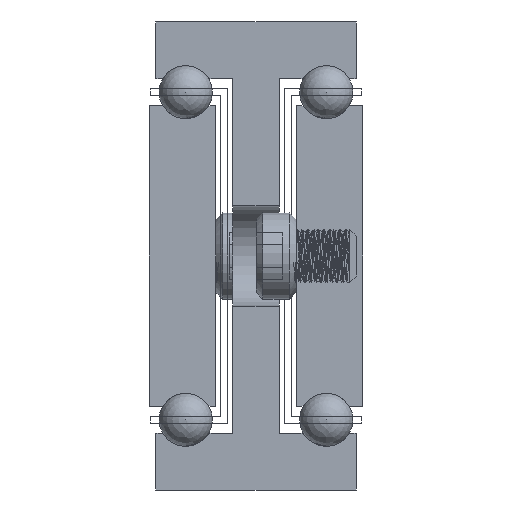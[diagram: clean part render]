
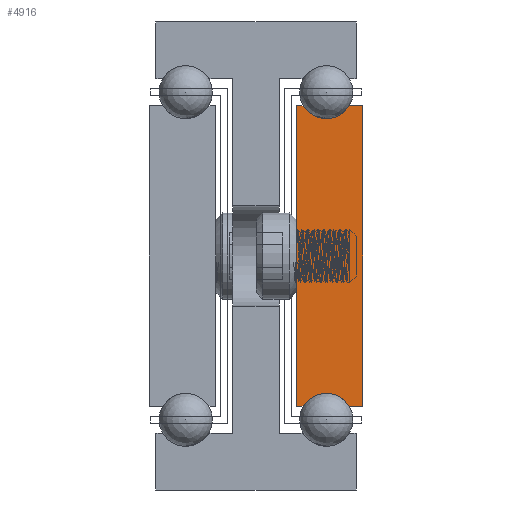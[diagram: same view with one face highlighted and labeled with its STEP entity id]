
A CAD part, front view. The second image highlights one B-rep face of the part: STEP entity #4916.
In plain terms, the highlighted planar face has unit normal (0, -1, 0).
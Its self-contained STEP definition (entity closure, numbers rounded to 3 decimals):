
#754=CIRCLE('',#5311,4.);
#756=CIRCLE('',#5317,4.);
#1226=FACE_OUTER_BOUND('',#1508,.T.);
#1508=EDGE_LOOP('',(#3980,#3981,#3982,#3983,#3984,#3985,#3986,#3987));
#2048=LINE('',#7664,#2260);
#2052=LINE('',#7672,#2264);
#2056=LINE('',#7684,#2268);
#2059=LINE('',#7690,#2271);
#2062=LINE('',#7696,#2274);
#2066=LINE('',#7707,#2278);
#2260=VECTOR('',#6124,1.);
#2264=VECTOR('',#6130,1.);
#2268=VECTOR('',#6142,1.);
#2271=VECTOR('',#6147,1.);
#2274=VECTOR('',#6152,1.);
#2278=VECTOR('',#6164,1.);
#2480=VERTEX_POINT('',#7662);
#2481=VERTEX_POINT('',#7663);
#2484=VERTEX_POINT('',#7671);
#2486=VERTEX_POINT('',#7677);
#2488=VERTEX_POINT('',#7683);
#2490=VERTEX_POINT('',#7689);
#2492=VERTEX_POINT('',#7695);
#2494=VERTEX_POINT('',#7701);
#3186=EDGE_CURVE('',#2480,#2481,#2048,.T.);
#3190=EDGE_CURVE('',#2481,#2484,#2052,.T.);
#3193=EDGE_CURVE('',#2484,#2486,#754,.T.);
#3196=EDGE_CURVE('',#2486,#2488,#2056,.T.);
#3199=EDGE_CURVE('',#2488,#2490,#2059,.T.);
#3202=EDGE_CURVE('',#2490,#2492,#2062,.T.);
#3205=EDGE_CURVE('',#2492,#2494,#756,.T.);
#3208=EDGE_CURVE('',#2494,#2480,#2066,.T.);
#3980=ORIENTED_EDGE('',*,*,#3208,.T.);
#3981=ORIENTED_EDGE('',*,*,#3186,.T.);
#3982=ORIENTED_EDGE('',*,*,#3190,.T.);
#3983=ORIENTED_EDGE('',*,*,#3193,.T.);
#3984=ORIENTED_EDGE('',*,*,#3196,.T.);
#3985=ORIENTED_EDGE('',*,*,#3199,.T.);
#3986=ORIENTED_EDGE('',*,*,#3202,.T.);
#3987=ORIENTED_EDGE('',*,*,#3205,.T.);
#4814=PLANE('',#5320);
#4916=ADVANCED_FACE('',(#1226),#4814,.F.);
#5311=AXIS2_PLACEMENT_3D('',#7678,#6135,#6136);
#5317=AXIS2_PLACEMENT_3D('',#7702,#6157,#6158);
#5320=AXIS2_PLACEMENT_3D('',#7709,#6166,#6167);
#6124=DIRECTION('',(0.,0.,1.));
#6130=DIRECTION('',(-1.,0.,0.));
#6135=DIRECTION('center_axis',(0.,1.,0.));
#6136=DIRECTION('ref_axis',(0.866,0.,-0.5));
#6142=DIRECTION('',(-1.,0.,0.));
#6147=DIRECTION('',(0.,0.,-1.));
#6152=DIRECTION('',(1.,0.,0.));
#6157=DIRECTION('center_axis',(0.,1.,0.));
#6158=DIRECTION('ref_axis',(-0.866,0.,0.5));
#6164=DIRECTION('',(1.,0.,0.));
#6166=DIRECTION('center_axis',(0.,1.,0.));
#6167=DIRECTION('ref_axis',(-1.,0.,0.));
#7662=CARTESIAN_POINT('',(-5335.522,-2199.115,927.5));
#7663=CARTESIAN_POINT('',(-5335.522,-2199.115,972.5));
#7664=CARTESIAN_POINT('',(-5335.522,-2199.115,927.5));
#7671=CARTESIAN_POINT('',(-5337.558,-2199.115,972.5));
#7672=CARTESIAN_POINT('',(-5335.522,-2199.115,972.5));
#7677=CARTESIAN_POINT('',(-5344.486,-2199.115,972.5));
#7678=CARTESIAN_POINT('Origin',(-5341.022,-2199.115,974.5));
#7683=CARTESIAN_POINT('',(-5345.522,-2199.115,972.5));
#7684=CARTESIAN_POINT('',(-5344.486,-2199.115,972.5));
#7689=CARTESIAN_POINT('',(-5345.522,-2199.115,927.5));
#7690=CARTESIAN_POINT('',(-5345.522,-2199.115,972.5));
#7695=CARTESIAN_POINT('',(-5344.486,-2199.115,927.5));
#7696=CARTESIAN_POINT('',(-5345.522,-2199.115,927.5));
#7701=CARTESIAN_POINT('',(-5337.558,-2199.115,927.5));
#7702=CARTESIAN_POINT('Origin',(-5341.022,-2199.115,925.5));
#7707=CARTESIAN_POINT('',(-5337.558,-2199.115,927.5));
#7709=CARTESIAN_POINT('Origin',(-5340.516,-2199.115,950.));
